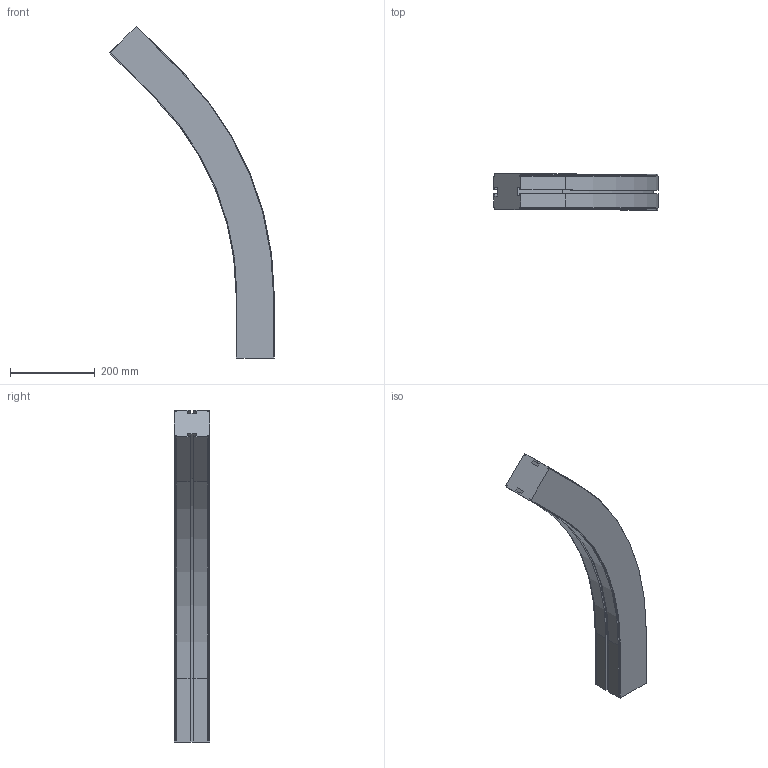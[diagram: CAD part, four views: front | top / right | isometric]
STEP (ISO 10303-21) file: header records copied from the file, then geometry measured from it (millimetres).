
FILE_DESCRIPTION (( 'STEP AP214' ), '1' );
FILE_NAME ('927754 CS090SL Horizontale bochtsectie R700 45°.STEP', '2014-03-20T14:55:04', ( 'Beheerder' ), ( '' ), 'SwSTEP 2.0', 'SolidWorks 2012', '' );
FILE_SCHEMA (( 'AUTOMOTIVE_DESIGN' ));
Length unit declared in the file: millimetre
Products named in the file (1): 927754 CS090SL Horizontale bochtsectie R700 45°
Bounding box: 387.91 x 84 x 782.86 mm (x, y, z)
Volume: 6079852.3 mm3; surface area: 400074.6 mm2
Topology: 1 solids, 1 shells, 98 faces, 272 edges, 176 vertices
Faces by surface type: plane 72, cylinder 18, cone 8
Entity records: 3126 total; most frequent: CARTESIAN_POINT 547, ORIENTED_EDGE 544, DIRECTION 514, EDGE_CURVE 272, VECTOR 228, LINE 228, VERTEX_POINT 176, AXIS2_PLACEMENT_3D 143
